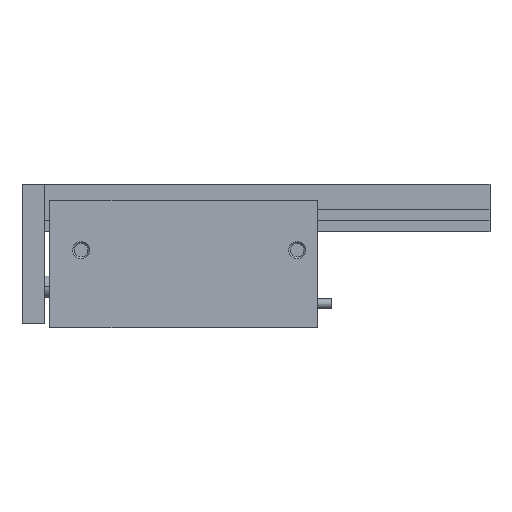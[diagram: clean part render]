
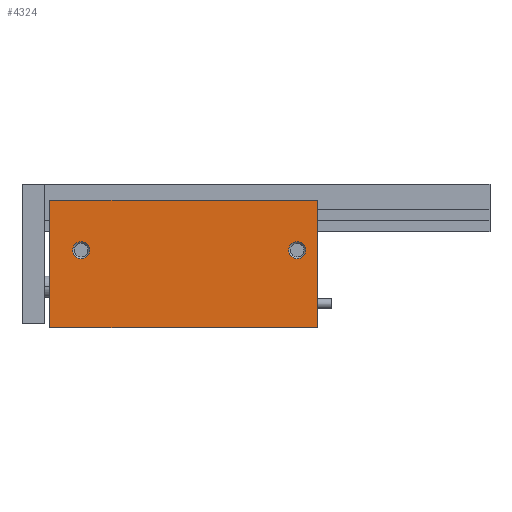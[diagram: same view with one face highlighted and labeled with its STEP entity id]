
A CAD part, top view. The second image highlights one B-rep face of the part: STEP entity #4324.
In plain terms, the highlighted planar face has unit normal (0, 0, 1) as drawn and (0, 0, -1) by its records, which use the part's own axes.
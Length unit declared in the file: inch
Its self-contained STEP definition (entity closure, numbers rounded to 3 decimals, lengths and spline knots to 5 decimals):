
#66 = VECTOR ( 'NONE', #6926, 39.37008 ) ;
#157 = EDGE_CURVE ( 'NONE', #6404, #8772, #735, .T. ) ;
#267 = EDGE_LOOP ( 'NONE', ( #9291, #6228 ) ) ;
#573 = DIRECTION ( 'NONE',  ( -1., 0., 0. ) ) ;
#735 = LINE ( 'NONE', #9268, #4498 ) ;
#792 = AXIS2_PLACEMENT_3D ( 'NONE', #2015, #7263, #2758 ) ;
#985 = LINE ( 'NONE', #1690, #8508 ) ;
#1231 = VERTEX_POINT ( 'NONE', #1959 ) ;
#1664 = CARTESIAN_POINT ( 'NONE',  ( 3., -0.715, -0.531 ) ) ;
#1671 = AXIS2_PLACEMENT_3D ( 'NONE', #8467, #3996, #9224 ) ;
#1690 = CARTESIAN_POINT ( 'NONE',  ( 0., -0.715, -0.531 ) ) ;
#1772 = DIRECTION ( 'NONE',  ( 0., 1., 0. ) ) ;
#1920 = CARTESIAN_POINT ( 'NONE',  ( 2.65, 0.153, -0.531 ) ) ;
#1959 = CARTESIAN_POINT ( 'NONE',  ( 2.555, 0.153, -0.531 ) ) ;
#1989 = EDGE_CURVE ( 'NONE', #4741, #1231, #7494, .T. ) ;
#2008 = CARTESIAN_POINT ( 'NONE',  ( 3., 0.715, -0.531 ) ) ;
#2015 = CARTESIAN_POINT ( 'NONE',  ( 0.225, 0.153, -0.531 ) ) ;
#2142 = EDGE_CURVE ( 'NONE', #6404, #5110, #5880, .T. ) ;
#2441 = DIRECTION ( 'NONE',  ( 0., 1., 0. ) ) ;
#2667 = DIRECTION ( 'NONE',  ( 1., 0., 0. ) ) ;
#2758 = DIRECTION ( 'NONE',  ( 1., 0., 0. ) ) ;
#2772 = VECTOR ( 'NONE', #573, 39.37008 ) ;
#2979 = AXIS2_PLACEMENT_3D ( 'NONE', #8149, #5140, #5170 ) ;
#3373 = ORIENTED_EDGE ( 'NONE', *, *, #8812, .T. ) ;
#3741 = ORIENTED_EDGE ( 'NONE', *, *, #2142, .T. ) ;
#3996 = DIRECTION ( 'NONE',  ( 0., 0., 1. ) ) ;
#4045 = FACE_OUTER_BOUND ( 'NONE', #6769, .T. ) ;
#4324 = ADVANCED_FACE ( 'NONE', ( #8011, #4045, #6016 ), #4418, .F. ) ;
#4378 = DIRECTION ( 'NONE',  ( 0., 0., 1. ) ) ;
#4418 = PLANE ( 'NONE',  #2979 ) ;
#4498 = VECTOR ( 'NONE', #1772, 39.37008 ) ;
#4709 = CARTESIAN_POINT ( 'NONE',  ( 0.13, 0.153, -0.531 ) ) ;
#4741 = VERTEX_POINT ( 'NONE', #5801 ) ;
#4763 = LINE ( 'NONE', #5076, #2772 ) ;
#5076 = CARTESIAN_POINT ( 'NONE',  ( 3., 0.715, -0.531 ) ) ;
#5110 = VERTEX_POINT ( 'NONE', #7487 ) ;
#5140 = DIRECTION ( 'NONE',  ( 0., 0., 1. ) ) ;
#5170 = DIRECTION ( 'NONE',  ( 1., 0., 0. ) ) ;
#5204 = CIRCLE ( 'NONE', #1671, 0.095 ) ;
#5332 = VERTEX_POINT ( 'NONE', #5495 ) ;
#5459 = EDGE_CURVE ( 'NONE', #8342, #6153, #8992, .T. ) ;
#5495 = CARTESIAN_POINT ( 'NONE',  ( 0., 0.715, -0.531 ) ) ;
#5512 = EDGE_CURVE ( 'NONE', #8772, #5332, #4763, .T. ) ;
#5666 = EDGE_LOOP ( 'NONE', ( #3373, #5839 ) ) ;
#5718 = AXIS2_PLACEMENT_3D ( 'NONE', #8868, #4378, #9626 ) ;
#5801 = CARTESIAN_POINT ( 'NONE',  ( 2.745, 0.153, -0.531 ) ) ;
#5839 = ORIENTED_EDGE ( 'NONE', *, *, #1989, .T. ) ;
#5880 = LINE ( 'NONE', #1664, #66 ) ;
#6016 = FACE_BOUND ( 'NONE', #5666, .T. ) ;
#6153 = VERTEX_POINT ( 'NONE', #6173 ) ;
#6173 = CARTESIAN_POINT ( 'NONE',  ( 0.32, 0.153, -0.531 ) ) ;
#6228 = ORIENTED_EDGE ( 'NONE', *, *, #7020, .T. ) ;
#6404 = VERTEX_POINT ( 'NONE', #7005 ) ;
#6491 = ORIENTED_EDGE ( 'NONE', *, *, #157, .F. ) ;
#6509 = CIRCLE ( 'NONE', #5718, 0.095 ) ;
#6769 = EDGE_LOOP ( 'NONE', ( #7929, #9316, #6491, #3741 ) ) ;
#6926 = DIRECTION ( 'NONE',  ( -1., 0., 0. ) ) ;
#7005 = CARTESIAN_POINT ( 'NONE',  ( 3., -0.715, -0.531 ) ) ;
#7020 = EDGE_CURVE ( 'NONE', #6153, #8342, #5204, .T. ) ;
#7165 = DIRECTION ( 'NONE',  ( 0., 0., 1. ) ) ;
#7263 = DIRECTION ( 'NONE',  ( 0., 0., 1. ) ) ;
#7487 = CARTESIAN_POINT ( 'NONE',  ( 0., -0.715, -0.531 ) ) ;
#7494 = CIRCLE ( 'NONE', #8766, 0.095 ) ;
#7929 = ORIENTED_EDGE ( 'NONE', *, *, #8326, .T. ) ;
#8011 = FACE_BOUND ( 'NONE', #267, .T. ) ;
#8149 = CARTESIAN_POINT ( 'NONE',  ( 3., -0.715, -0.531 ) ) ;
#8326 = EDGE_CURVE ( 'NONE', #5110, #5332, #985, .T. ) ;
#8342 = VERTEX_POINT ( 'NONE', #4709 ) ;
#8467 = CARTESIAN_POINT ( 'NONE',  ( 0.225, 0.153, -0.531 ) ) ;
#8508 = VECTOR ( 'NONE', #2441, 39.37008 ) ;
#8766 = AXIS2_PLACEMENT_3D ( 'NONE', #1920, #7165, #2667 ) ;
#8772 = VERTEX_POINT ( 'NONE', #2008 ) ;
#8812 = EDGE_CURVE ( 'NONE', #1231, #4741, #6509, .T. ) ;
#8868 = CARTESIAN_POINT ( 'NONE',  ( 2.65, 0.153, -0.531 ) ) ;
#8992 = CIRCLE ( 'NONE', #792, 0.095 ) ;
#9224 = DIRECTION ( 'NONE',  ( 1., 0., 0. ) ) ;
#9268 = CARTESIAN_POINT ( 'NONE',  ( 3., -0.715, -0.531 ) ) ;
#9291 = ORIENTED_EDGE ( 'NONE', *, *, #5459, .T. ) ;
#9316 = ORIENTED_EDGE ( 'NONE', *, *, #5512, .F. ) ;
#9626 = DIRECTION ( 'NONE',  ( 1., 0., 0. ) ) ;
